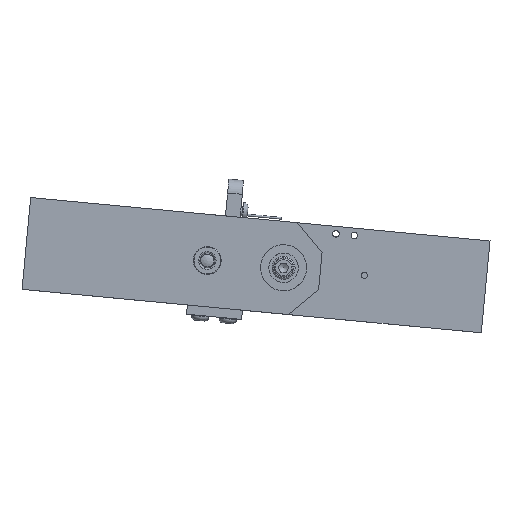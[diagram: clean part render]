
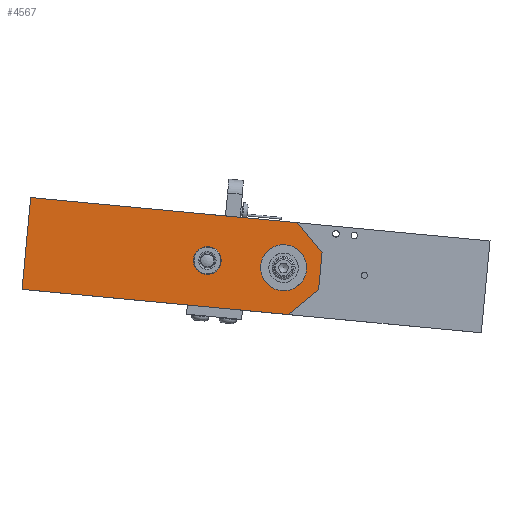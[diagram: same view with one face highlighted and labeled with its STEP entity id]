
A CAD part, top view. The second image highlights one B-rep face of the part: STEP entity #4567.
In plain terms, the highlighted planar face has unit normal (0, 0, 1) as drawn and (0, 0, -1) by its records, which use the part's own axes.
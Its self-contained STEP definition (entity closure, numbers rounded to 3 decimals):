
#360=LINE('',#7238,#601);
#362=LINE('',#7242,#603);
#365=LINE('',#7250,#606);
#366=LINE('',#7252,#607);
#367=LINE('',#7254,#608);
#368=LINE('',#7255,#609);
#601=VECTOR('',#5746,21.213);
#603=VECTOR('',#5750,145.);
#606=VECTOR('',#5757,20.);
#607=VECTOR('',#5758,21.213);
#608=VECTOR('',#5759,145.);
#609=VECTOR('',#5760,50.);
#822=PLANE('',#4985);
#1051=FACE_BOUND('',#1582,.T.);
#1052=FACE_BOUND('',#1583,.T.);
#1053=FACE_BOUND('',#1584,.T.);
#1582=EDGE_LOOP('',(#3412));
#1583=EDGE_LOOP('',(#3413));
#1584=EDGE_LOOP('',(#3414,#3415,#3416,#3417,#3418,#3419));
#2018=CIRCLE('',#4982,6.);
#2019=CIRCLE('',#4986,10.);
#2285=VERTEX_POINT('',#7229);
#2288=VERTEX_POINT('',#7235);
#2289=VERTEX_POINT('',#7237);
#2290=VERTEX_POINT('',#7241);
#2292=VERTEX_POINT('',#7247);
#2293=VERTEX_POINT('',#7249);
#2294=VERTEX_POINT('',#7251);
#2295=VERTEX_POINT('',#7253);
#2729=EDGE_CURVE('',#2285,#2285,#2018,.T.);
#2732=EDGE_CURVE('',#2288,#2289,#360,.T.);
#2734=EDGE_CURVE('',#2289,#2290,#362,.T.);
#2737=EDGE_CURVE('',#2292,#2292,#2019,.T.);
#2738=EDGE_CURVE('',#2293,#2288,#365,.T.);
#2739=EDGE_CURVE('',#2294,#2293,#366,.T.);
#2740=EDGE_CURVE('',#2295,#2294,#367,.T.);
#2741=EDGE_CURVE('',#2290,#2295,#368,.T.);
#3412=ORIENTED_EDGE('',*,*,#2729,.T.);
#3413=ORIENTED_EDGE('',*,*,#2737,.T.);
#3414=ORIENTED_EDGE('',*,*,#2732,.F.);
#3415=ORIENTED_EDGE('',*,*,#2738,.F.);
#3416=ORIENTED_EDGE('',*,*,#2739,.F.);
#3417=ORIENTED_EDGE('',*,*,#2740,.F.);
#3418=ORIENTED_EDGE('',*,*,#2741,.F.);
#3419=ORIENTED_EDGE('',*,*,#2734,.F.);
#4567=ADVANCED_FACE('',(#1051,#1052,#1053),#822,.F.);
#4982=AXIS2_PLACEMENT_3D('',#7230,#5740,#5741);
#4985=AXIS2_PLACEMENT_3D('',#7246,#5753,#5754);
#4986=AXIS2_PLACEMENT_3D('',#7248,#5755,#5756);
#5740=DIRECTION('center_axis',(0.,0.,
1.));
#5741=DIRECTION('ref_axis',(-1.,0.,0.));
#5746=DIRECTION('',(0.707,-0.707,0.));
#5750=DIRECTION('',(1.,0.,0.));
#5753=DIRECTION('center_axis',(0.,0.,
1.));
#5754=DIRECTION('ref_axis',(1.,0.,0.));
#5755=DIRECTION('center_axis',(0.,0.,
1.));
#5756=DIRECTION('ref_axis',(1.,0.,0.));
#5757=DIRECTION('',(0.,-1.,0.));
#5758=DIRECTION('',(-0.707,-0.707,0.));
#5759=DIRECTION('',(-1.,0.,0.));
#5760=DIRECTION('',(0.,1.,0.));
#7229=CARTESIAN_POINT('',(-24.5,0.,0.));
#7230=CARTESIAN_POINT('Origin',(-18.5,0.,
0.));
#7235=CARTESIAN_POINT('',(-80.,-10.,0.));
#7237=CARTESIAN_POINT('',(-65.,-25.,0.));
#7238=CARTESIAN_POINT('',(-58.75,-31.25,0.));
#7241=CARTESIAN_POINT('',(80.,-25.,0.));
#7242=CARTESIAN_POINT('',(-80.,-25.,0.));
#7246=CARTESIAN_POINT('Origin',(0.,0.,
0.));
#7247=CARTESIAN_POINT('',(-70.,0.,0.));
#7248=CARTESIAN_POINT('Origin',(-60.,0.,
0.));
#7249=CARTESIAN_POINT('',(-80.,10.,0.));
#7250=CARTESIAN_POINT('',(-80.,25.,0.));
#7251=CARTESIAN_POINT('',(-65.,25.,0.));
#7252=CARTESIAN_POINT('',(-58.75,31.25,0.));
#7253=CARTESIAN_POINT('',(80.,25.,0.));
#7254=CARTESIAN_POINT('',(80.,25.,0.));
#7255=CARTESIAN_POINT('',(80.,-25.,0.));
